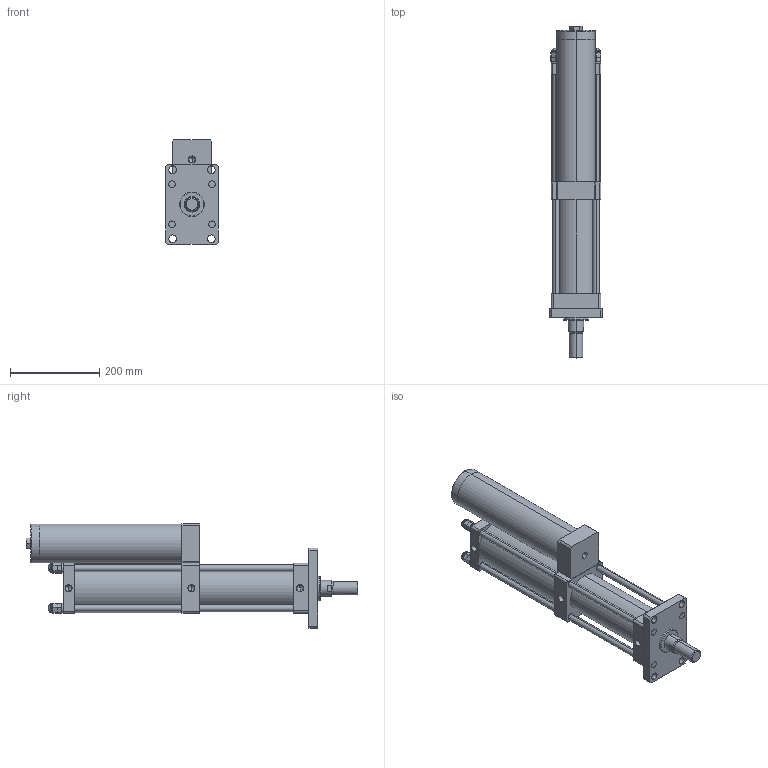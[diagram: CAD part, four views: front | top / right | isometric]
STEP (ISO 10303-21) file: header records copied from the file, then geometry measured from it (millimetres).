
FILE_DESCRIPTION (( 'STEP AP203' ), '1' );
FILE_NAME ('MPT-80-150-15-5T.STEP', '2016-03-11T01:41:41', ( 'WIN' ), ( '' ), 'SwSTEP 2.0', 'SolidWorks 2014', '' );
FILE_SCHEMA (( 'CONFIG_CONTROL_DESIGN' ));
Length unit declared in the file: millimetre
Products named in the file (1): MPT-80-150-15-5T
Bounding box: 118 x 745 x 235 mm (x, y, z)
Volume: 6340141.7 mm3; surface area: 728595.2 mm2
Topology: 20 solids, 20 shells, 391 faces, 954 edges, 554 vertices
Faces by surface type: plane 184, cylinder 84, torus 48, bspline 48, cone 27
Entity records: 12532 total; most frequent: CARTESIAN_POINT 3676, DIRECTION 1861, ORIENTED_EDGE 1776, EDGE_CURVE 888, AXIS2_PLACEMENT_3D 683, VERTEX_POINT 554, VECTOR 495, LINE 495
